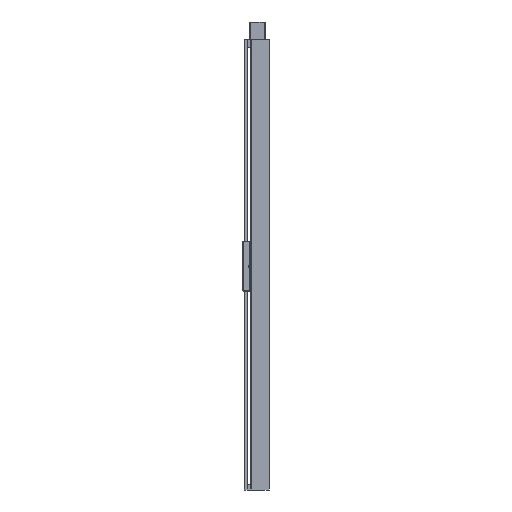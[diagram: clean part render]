
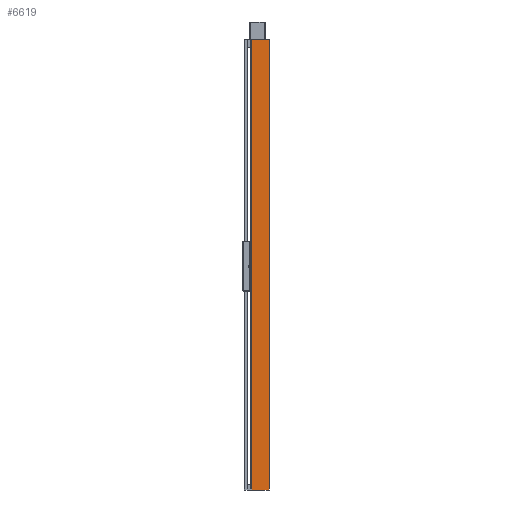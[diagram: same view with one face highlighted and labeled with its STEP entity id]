
A CAD part, left-side view. The second image highlights one B-rep face of the part: STEP entity #6619.
In plain terms, the highlighted planar face has unit normal (-1, 0, 0).
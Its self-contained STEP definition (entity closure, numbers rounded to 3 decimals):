
#1937=CARTESIAN_POINT('',(-68.,65.5,1645.));
#1938=VERTEX_POINT('',#1937);
#1946=CARTESIAN_POINT('',(-68.0,0.5,1645.));
#1947=VERTEX_POINT('',#1946);
#1948=CARTESIAN_POINT('',(-68.0,0.5,1645.));
#1949=DIRECTION('',(0.0,1.0,0.0));
#1950=VECTOR('',#1949,65.0);
#1951=LINE('',#1948,#1950);
#1952=EDGE_CURVE('',#1947,#1938,#1951,.T.);
#5826=CARTESIAN_POINT('',(-68.0,0.5,-20.0));
#5827=VERTEX_POINT('',#5826);
#5836=CARTESIAN_POINT('',(-68.,65.5,-20.0));
#5837=VERTEX_POINT('',#5836);
#5838=CARTESIAN_POINT('',(-68.,65.5,-20.0));
#5839=DIRECTION('',(0.0,-1.0,0.0));
#5840=VECTOR('',#5839,65.0);
#5841=LINE('',#5838,#5840);
#5842=EDGE_CURVE('',#5837,#5827,#5841,.T.);
#6568=CARTESIAN_POINT('',(-68.0,0.5,-20.0));
#6569=DIRECTION('',(0.0,0.0,1.0));
#6570=VECTOR('',#6569,1665.);
#6571=LINE('',#6568,#6570);
#6572=EDGE_CURVE('',#5827,#1947,#6571,.T.);
#6603=CARTESIAN_POINT('',(-68.0,0.5,0.0));
#6604=DIRECTION('',(-1.0,0.0,0.0));
#6605=DIRECTION('',(0.0,0.0,1.0));
#6606=AXIS2_PLACEMENT_3D('',#6603,#6604,#6605);
#6607=PLANE('',#6606);
#6608=CARTESIAN_POINT('',(-68.,65.5,-20.0));
#6609=DIRECTION('',(0.0,0.0,1.0));
#6610=VECTOR('',#6609,1665.);
#6611=LINE('',#6608,#6610);
#6612=EDGE_CURVE('',#5837,#1938,#6611,.T.);
#6613=ORIENTED_EDGE('',*,*,#6612,.F.);
#6614=ORIENTED_EDGE('',*,*,#5842,.T.);
#6615=ORIENTED_EDGE('',*,*,#6572,.T.);
#6616=ORIENTED_EDGE('',*,*,#1952,.T.);
#6617=EDGE_LOOP('',(#6613,#6614,#6615,#6616));
#6618=FACE_OUTER_BOUND('',#6617,.T.);
#6619=ADVANCED_FACE('',(#6618),#6607,.T.);
